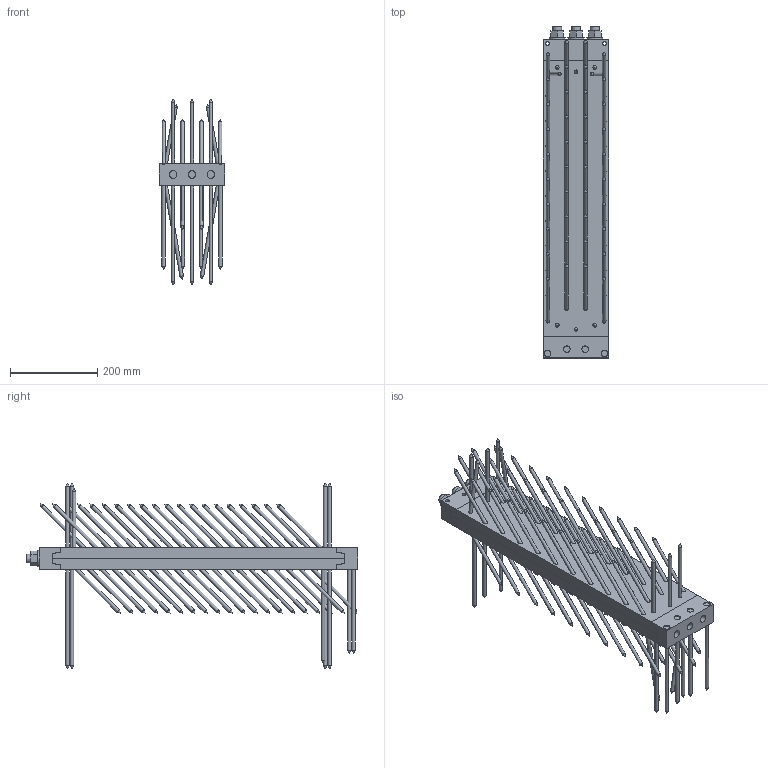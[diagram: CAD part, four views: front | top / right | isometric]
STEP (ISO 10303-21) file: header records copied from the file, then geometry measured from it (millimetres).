
FILE_DESCRIPTION(/* description */ ('Unknown'),/* implementation_level */ '2;1');
FILE_NAME(/* name */ 'MEGANT_730x150x50_Verdeckt',/* time_stamp */ '2020-05-06T08:29:39+02:00',/* author */ ('Unknown'),/* organization */ ('Unknown'),/* preprocessor_version */ 'ST-DEVELOPER v16.7',/* originating_system */ 'DEX',/* authorisation */ $);
FILE_SCHEMA (('AUTOMOTIVE_DESIGN {1 0 10303 214 3 1 1}'));
Length unit declared in the file: millimetre
Products named in the file (13): MEGANT_730x150x50_Verdeckt; Verbinderplatte_670x150x25_NT; SK_Schraube_8x240; Verbinderplatte_670x150x25; SK_Schraube_8x160; Verbinderplatte_670x150x25_HT; Spannbacke_oben_150x50x50; Gewindestange_M20_L580; Mutter_M20; Beilagscheibe_M20; Spannbacke_unten_150x50x50_NT; Spannbacke_unten_150x50x50
Assembly tree (113 placements, depth 3):
  MEGANT_730x150x50_Verdeckt
    Verbinderplatte_670x150x25_NT
      SK_Schraube_8x240  x8
      Verbinderplatte_670x150x25
      SK_Schraube_8x160  x40
    Verbinderplatte_670x150x25_HT
      SK_Schraube_8x160  x48
      Verbinderplatte_670x150x25
    Spannbacke_oben_150x50x50
    Gewindestange_M20_L580  x3
      Gewindestange_M20_L580
      Mutter_M20
      Beilagscheibe_M20
    Spannbacke_unten_150x50x50_NT
      Spannbacke_unten_150x50x50
      SK_Schraube_8x240  x4
Bounding box: 150 x 760 x 425 mm (x, y, z)
Volume: 5523013.6 mm3; surface area: 1320173.5 mm2
Topology: 113 solids, 113 shells, 1077 faces, 2369 edges, 1487 vertices
Faces by surface type: cylinder 426, plane 335, cone 304, bspline 12
Full cylindrical faces by diameter (mm): 8 x100, 8.5 x104, 15 x204, 17.294 x6, 20 x3, 21 x6, 37 x3
Entity records: 9554 total; most frequent: CARTESIAN_POINT 1696, DIRECTION 1598, ORIENTED_EDGE 1028, AXIS2_PLACEMENT_3D 700, FACE_BOUND 660, EDGE_LOOP 658, EDGE_CURVE 514, VERTEX_POINT 438
